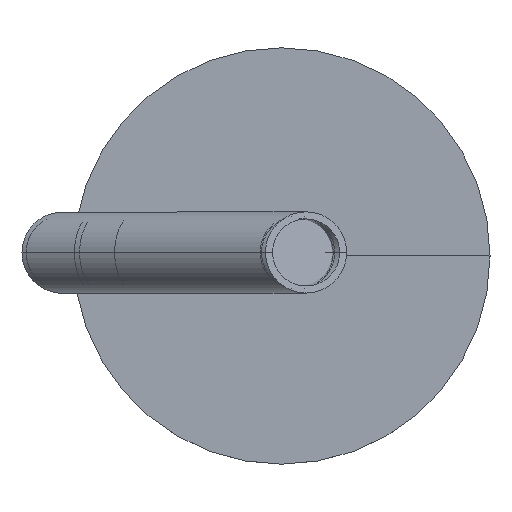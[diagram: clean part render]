
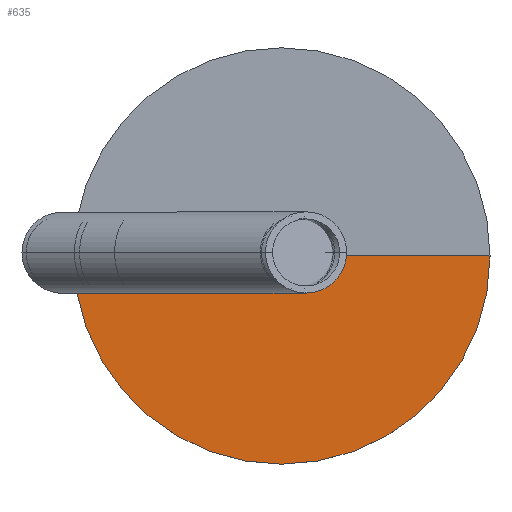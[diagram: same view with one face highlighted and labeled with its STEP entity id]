
A CAD part, top view. The second image highlights one B-rep face of the part: STEP entity #635.
In plain terms, the highlighted planar face has unit normal (0, 0, 1).
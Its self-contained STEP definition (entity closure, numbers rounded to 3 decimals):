
#89=FACE_OUTER_BOUND('',#140,.T.);
#140=EDGE_LOOP('',(#446,#447,#448,#449));
#191=LINE('',#1004,#232);
#192=LINE('',#1007,#233);
#232=VECTOR('',#802,304.8);
#233=VECTOR('',#805,304.8);
#273=CIRCLE('',#696,5.5);
#275=CIRCLE('',#700,100.);
#301=VERTEX_POINT('',#995);
#302=VERTEX_POINT('',#997);
#303=VERTEX_POINT('',#1003);
#304=VERTEX_POINT('',#1005);
#352=EDGE_CURVE('',#302,#301,#273,.T.);
#355=EDGE_CURVE('',#303,#301,#191,.T.);
#356=EDGE_CURVE('',#304,#303,#275,.T.);
#357=EDGE_CURVE('',#302,#304,#192,.T.);
#446=ORIENTED_EDGE('',*,*,#352,.T.);
#447=ORIENTED_EDGE('',*,*,#355,.F.);
#448=ORIENTED_EDGE('',*,*,#356,.F.);
#449=ORIENTED_EDGE('',*,*,#357,.F.);
#604=PLANE('',#699);
#635=ADVANCED_FACE('',(#89),#604,.T.);
#696=AXIS2_PLACEMENT_3D('',#998,#793,#794);
#699=AXIS2_PLACEMENT_3D('',#1002,#800,#801);
#700=AXIS2_PLACEMENT_3D('',#1006,#803,#804);
#793=DIRECTION('center_axis',(0.,0.,-1.));
#794=DIRECTION('ref_axis',(1.,0.,0.));
#800=DIRECTION('center_axis',(0.,0.,1.));
#801=DIRECTION('ref_axis',(1.,0.,0.));
#802=DIRECTION('',(1.,0.,0.));
#803=DIRECTION('center_axis',(0.,0.,-1.));
#804=DIRECTION('ref_axis',(1.,0.,0.));
#805=DIRECTION('',(1.,0.,0.));
#995=CARTESIAN_POINT('',(-5.5,0.,7.));
#997=CARTESIAN_POINT('',(5.5,0.,7.));
#998=CARTESIAN_POINT('Origin',(0.,0.,7.));
#1002=CARTESIAN_POINT('Origin',(0.,0.,7.));
#1003=CARTESIAN_POINT('',(-100.,0.,7.));
#1004=CARTESIAN_POINT('',(-100.,0.,7.));
#1005=CARTESIAN_POINT('',(100.,0.,7.));
#1006=CARTESIAN_POINT('Origin',(0.,0.,7.));
#1007=CARTESIAN_POINT('',(5.5,0.,7.));
